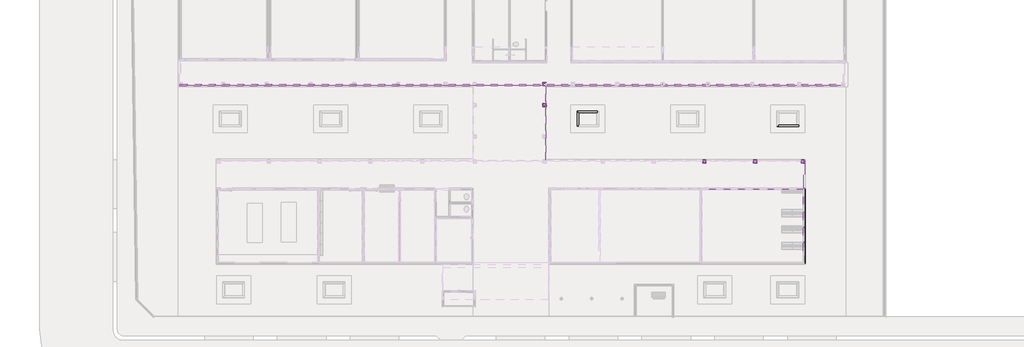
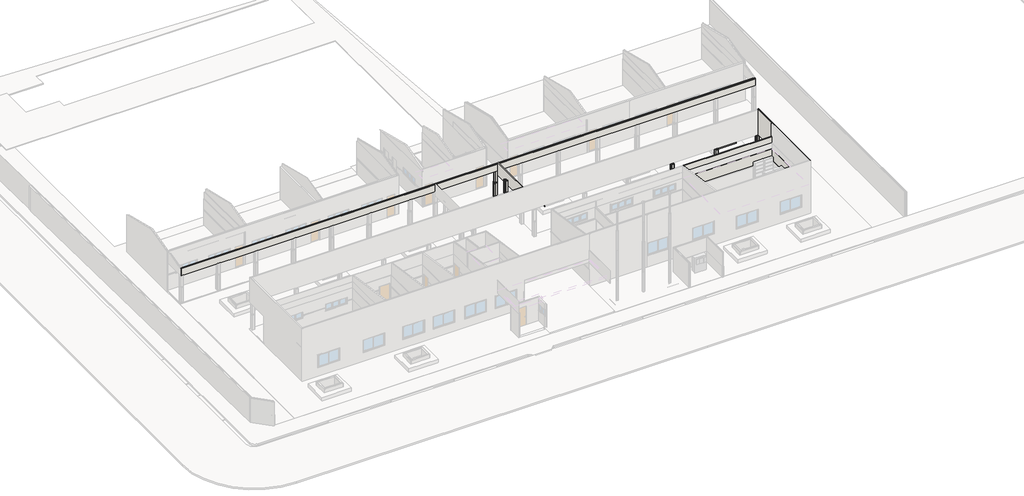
# One storey, part 14 of 28: 73 walls.
"""IFC4 building model written with IfcOpenShell, lengths in millimetres."""

from ifc_helpers import new_model, si_unit, frame, origin, origin_with_axes, place, context, project, spatial, polyline, outline, extrude, faceted_brep, element, save

model = new_model("IFC4")

# Units and contexts
model_context = context("Model", 3, world=origin())
ifc_project = project(units=[si_unit("LENGTHUNIT", "METRE", prefix="MILLI")], contexts=[model_context])

# Site, building, storey
site = spatial("IfcSite", under=ifc_project)
building = spatial("IfcBuilding", under=site)
storey = spatial("IfcBuildingStorey", under=building, Name="Térreo", Elevation=0.0)

# Walls
placement = place(None, origin())
element("IfcWall", 1, ObjectType="Pintura Externa - Tinta Acrílica Verbrás  Verde Água", at=placement, inside=storey, context=model_context, shape_type="Brep", body=[
    faceted_brep([(-6650.0, 4430.0000005, 0.0), (-6650.0, 10655.0, 0.0), (-6650.0, 10655.0, 1731.0528047), (-6650.0, 10670.0, 1731.0528047), (-6650.0, 10670.0, 1824.9435125), (-6650.0, 10691.0, 1824.9435125), (-6650.0, 10691.0, 2900.0), (-6650.0, 12980.0, 2900.0), (-6650.0, 12980.0, 5400.0), (-6650.0, 4430.0000005, 5400.0), (-6680.0, 4430.0000005, 0.0), (-6680.0, 4430.0000005, 5400.0), (-6680.0, 12950.0, 5400.0), (-6680.0, 12980.0, 5400.0), (-6680.0, 12980.0, 2900.0), (-6680.0, 12950.0, 2900.0), (-6680.0, 10691.0, 2900.0), (-6680.0, 10691.0, 1824.9435125), (-6680.0, 10670.0, 1824.9435125), (-6680.0, 10670.0, 1731.0528047), (-6680.0, 10655.0, 1731.0528047), (-6680.0, 10655.0, 0.0)], [[[0, 1, 2, 3, 4, 5, 6, 7, 8, 9]], [[10, 11, 12, 13, 14, 15, 16, 17, 18, 19, 20, 21]], [[0, 9, 11, 10]], [[8, 7, 14, 13]], [[7, 6, 16, 15, 14]], [[9, 8, 13, 12, 11]], [[1, 0, 10, 21]], [[4, 3, 19, 18]], [[2, 1, 21, 20]], [[6, 5, 17, 16]], [[19, 3, 2, 20]], [[17, 5, 4, 18]]]),
])
element("IfcWall", 2, ObjectType="Pardes Internas_Pintura Acrílica Branco Neve 2", at=placement, inside=storey, context=model_context, shape_type="SweptSolid", body=[
    extrude(outline(polyline([(2900.0, -6770.0), (2900.0, -15149.0), (1824.9435125, -15149.0), (1824.9435125, -15080.0), (2312.0, -15080.0), (2312.0, -14246.0), (1824.9435125, -14246.0), (1824.9435125, -6770.0), (2900.0, -6770.0)])), frame((0.0, 10549.0, 0.0), z_axis=(0.0, 1.0, 0.0), x_axis=(0.0, 0.0, 1.0)), (0.0, 0.0, 1.0), 31.0),
])
element("IfcWall", 3, ObjectType="FDE_S712_AlvenariadeTijoloCerâmico/Baiano_Alvenaria_9cm - Existente", at=placement, inside=storey, context=model_context, shape_type="Brep", body=[
    faceted_brep([(-6770.0, 10670.0, 0.0), (-14246.0, 10670.0, 0.0), (-15080.0, 10670.0, 0.0), (-15180.0, 10670.0, 0.0), (-15180.0, 10670.0, 220.0), (-15180.0, 10670.0, 1731.0528047), (-15180.0, 10670.0, 2900.0), (-15180.0, 10670.0, 4085.0), (-6770.0, 10670.0, 4085.0), (-6770.0, 10670.0, 1731.0528047), (-15080.0, 10670.0, 2312.0), (-15080.0, 10670.0, 1731.0528047), (-15080.0, 10670.0, 200.0), (-14246.0, 10670.0, 200.0), (-14246.0, 10670.0, 1731.0528047), (-14246.0, 10670.0, 2312.0), (-15180.0, 10580.0, 0.0), (-15150.0, 10580.0, 0.0), (-6770.0, 10580.0, 0.0), (-6770.0, 10580.0, 1731.0528047), (-6770.0, 10580.0, 1824.9435125), (-6770.0, 10580.0, 2900.0), (-6770.0, 10580.0, 4098.5), (-15180.0, 10580.0, 4098.5), (-15180.0, 10580.0, 2900.0), (-15180.0, 10580.0, 1824.9435125), (-15180.0, 10580.0, 1731.0528047), (-15180.0, 10580.0, 220.0), (-15080.0, 10580.0, 200.0), (-15080.0, 10580.0, 1824.9435125), (-15080.0, 10580.0, 2312.0), (-14246.0, 10580.0, 2312.0), (-14246.0, 10580.0, 1824.9435125), (-14246.0, 10580.0, 1731.0528047), (-14246.0, 10580.0, 220.0), (-14246.0, 10580.0, 200.0), (-6770.0, 10655.0, 0.0)], [[[0, 1, 2, 3, 4, 5, 6, 7, 8, 9], [10, 11, 12, 13, 14, 15]], [[16, 17, 18, 19, 20, 21, 22, 23, 24, 25, 26, 27], [28, 29, 30, 31, 32, 33, 34, 35]], [[3, 2, 1, 0, 36, 18, 17, 16]], [[28, 12, 11, 10, 30, 29]], [[30, 10, 15, 31]], [[31, 15, 14, 13, 35, 34, 33, 32]], [[12, 28, 35, 13]], [[3, 16, 27, 26, 25, 24, 23, 7, 6, 5, 4]], [[7, 23, 22, 8]], [[18, 36, 0, 9, 8, 22, 21, 20, 19]]]),
])
element("IfcWall", 4, ObjectType="FDE_S712_AlvenariadeTijoloCerâmico/Baiano_Alvenaria_9cm", at=placement, inside=storey, context=model_context, shape_type="Brep", body=[
    faceted_brep([(-6680.0, 10670.0, 4136.0), (-6680.0, 10670.0, 2900.0), (-6680.0, 12950.0, 2900.0), (-6680.0, 12950.0, 5400.0), (-6680.0, 10625.0, 5400.0), (-6680.0, 10625.0, 4136.0), (-6770.0, 10670.0, 2900.0), (-6770.0, 10670.0, 4136.0), (-6770.0, 10625.0, 4136.0), (-6770.0, 10625.0, 5400.0), (-6770.0, 12860.0, 5400.0), (-6770.0, 12950.0, 5400.0), (-6770.0, 12950.0, 2900.0), (-6770.0, 12860.0, 2900.0)], [[[0, 1, 2, 3, 4, 5]], [[6, 7, 8, 9, 10, 11, 12, 13]], [[2, 1, 6, 13, 12]], [[4, 3, 11, 10, 9]], [[3, 2, 12, 11]], [[5, 4, 9, 8]], [[5, 8, 7, 0]], [[0, 7, 6, 1]]]),
])
element("IfcWall", 5, ObjectType="ACM Verde Folha_Marquise", at=placement, inside=storey, context=model_context, shape_type="Brep", body=[
    faceted_brep([(-27999.0, 19037.7110243, 2530.0), (-27999.0, 19017.7110243, 2530.0), (-27999.0, 13000.0, 2530.0), (-27999.0, 12980.0, 2530.0), (-27999.0, 12971.0, 2530.0), (-27999.0, 12971.0, 2900.0), (-27999.0, 12980.0, 2900.0), (-27999.0, 12980.0, 3790.9420848), (-27999.0, 13000.0, 3790.9420848), (-27999.0, 19017.7110243, 3790.9420848), (-27999.0, 19037.7110243, 3790.9420848), (-27979.0, 19037.7110243, 2530.0), (-27979.0, 19037.7110243, 3790.9420848), (-27979.0, 12980.0, 3790.9420848), (-27979.0, 12980.0, 2900.0), (-27979.0, 12971.0, 2900.0), (-27979.0, 12971.0, 2530.0)], [[[0, 1, 2, 3, 4, 5, 6, 7, 8, 9, 10]], [[11, 12, 13, 14, 15, 16]], [[4, 3, 2, 1, 0, 11, 16]], [[10, 9, 8, 7, 13, 12]], [[14, 6, 5, 15]], [[5, 4, 16, 15]], [[7, 6, 14, 13]], [[0, 10, 12, 11]]]),
])
element("IfcWall", 6, ObjectType="Pardes Internas_Pintura Acrílica Branco Neve 2", at=placement, inside=storey, context=model_context, shape_type="SweptSolid", body=[
    extrude(outline(polyline([(-6770.0, 10580.0), (-6770.0, 5500.2772826), (-6801.0, 5500.2772826), (-6801.0, 10580.0), (-6770.0, 10580.0)])), frame((0.0, 0.0, 1824.9435125), z_axis=(0.0, 0.0, 1.0), x_axis=(1.0, 0.0, 0.0)), (0.0, 0.0, 1.0), 1075.0564875),
])
element("IfcWall", 7, ObjectType="Faixa - Revestimento Cerâmico Verde Folha 10x10cm", at=placement, inside=storey, context=model_context, shape_type="SweptSolid", body=[
    extrude(outline(polyline([(-6770.0, 10580.0), (-6770.0, 5500.2772826), (-6800.0, 5500.2772826), (-6800.0, 10580.0), (-6770.0, 10580.0)])), frame((0.0, 0.0, 1731.0528047), z_axis=(0.0, 0.0, 1.0), x_axis=(1.0, 0.0, 0.0)), (0.0, 0.0, 1.0), 93.8907079),
])
element("IfcWall", 8, ObjectType="Pardes Externas_Pintura Acrílica Branco Neve", at=placement, inside=storey, context=model_context, shape_type="Brep", body=[
    faceted_brep([(-15071.0, 12950.0, 1794.0), (-15050.0, 12950.0, 1794.0), (-14850.0, 12950.0, 1794.0), (-14829.0, 12950.0, 1794.0), (-14829.0, 12950.0, 2900.0), (-14850.0, 12950.0, 2900.0), (-15050.0, 12950.0, 2900.0), (-15071.0, 12950.0, 2900.0), (-15071.0, 12971.0, 1794.0), (-15071.0, 12971.0, 2900.0), (-14829.0, 12971.0, 2900.0), (-14829.0, 12971.0, 1794.0)], [[[0, 1, 2, 3, 4, 5, 6, 7]], [[8, 9, 10, 11]], [[3, 2, 1, 0, 8, 11]], [[7, 6, 5, 4, 10, 9]], [[0, 7, 9, 8]], [[4, 3, 11, 10]]]),
])
element("IfcWall", 9, ObjectType="Revestimento Cerâmico 10x10cm", at=placement, inside=storey, context=model_context, shape_type="Brep", body=[
    faceted_brep([(-15080.0, 12950.0, 194.0), (-15050.0, 12950.0, 194.0), (-14850.0, 12950.0, 194.0), (-14820.0, 12950.0, 194.0), (-14820.0, 12950.0, 1694.0), (-14850.0, 12950.0, 1694.0), (-15050.0, 12950.0, 1694.0), (-15080.0, 12950.0, 1694.0), (-15080.0, 12980.0, 194.0), (-15080.0, 12980.0, 1694.0), (-14820.0, 12980.0, 1694.0), (-14820.0, 12980.0, 194.0)], [[[0, 1, 2, 3, 4, 5, 6, 7]], [[8, 9, 10, 11]], [[3, 2, 1, 0, 8, 11]], [[7, 6, 5, 4, 10, 9]], [[0, 7, 9, 8]], [[4, 3, 11, 10]]]),
])
element("IfcWall", 10, ObjectType="Revestimento Cerâmico 10x10cm", at=placement, inside=storey, context=model_context, shape_type="Brep", body=[
    faceted_brep([(-15050.0, 12720.0, 194.0), (-15050.0, 12750.0, 194.0), (-15050.0, 12950.0, 194.0), (-15050.0, 12950.0, 1694.0), (-15050.0, 12750.0, 1694.0), (-15050.0, 12720.0, 1694.0), (-15080.0, 12720.0, 194.0), (-15080.0, 12720.0, 1694.0), (-15080.0, 12950.0, 1694.0), (-15080.0, 12950.0, 194.0)], [[[0, 1, 2, 3, 4, 5]], [[6, 7, 8, 9]], [[2, 1, 0, 6, 9]], [[5, 4, 3, 8, 7]], [[3, 2, 9, 8]], [[0, 5, 7, 6]]]),
])
element("IfcWall", 11, ObjectType="Revestimento Cerâmico 10x10cm", at=placement, inside=storey, context=model_context, shape_type="Brep", body=[
    faceted_brep([(-14850.0, 12950.0, 194.0), (-14850.0, 12750.0, 194.0), (-14850.0, 12720.0, 194.0), (-14850.0, 12720.0, 1694.0), (-14850.0, 12750.0, 1694.0), (-14850.0, 12950.0, 1694.0), (-14820.0, 12950.0, 194.0), (-14820.0, 12950.0, 1694.0), (-14820.0, 12720.0, 1694.0), (-14820.0, 12720.0, 194.0)], [[[0, 1, 2, 3, 4, 5]], [[6, 7, 8, 9]], [[2, 1, 0, 6, 9]], [[5, 4, 3, 8, 7]], [[0, 5, 7, 6]], [[3, 2, 9, 8]]]),
])
element("IfcWall", 12, ObjectType="Revestimento Cerâmico 10x10cm", at=placement, inside=storey, context=model_context, shape_type="SweptSolid", body=[
    extrude(outline(polyline([(-14850.0, 12720.0), (-15050.0, 12720.0), (-15050.0, 12750.0), (-14850.0, 12750.0), (-14850.0, 12720.0)])), frame((0.0, 0.0, 194.0), z_axis=(0.0, 0.0, 1.0), x_axis=(1.0, 0.0, 0.0)), (0.0, 0.0, 1.0), 1500.0),
])
element("IfcWall", 13, ObjectType="Faixa - Revestimento Cerâmico Verde Folha 10x10cm", at=placement, inside=storey, context=model_context, shape_type="Brep", body=[
    faceted_brep([(-15080.0, 12950.0, 1694.0), (-15050.0, 12950.0, 1694.0), (-14850.0, 12950.0, 1694.0), (-14820.0, 12950.0, 1694.0), (-14820.0, 12950.0, 1794.0), (-14850.0, 12950.0, 1794.0), (-15050.0, 12950.0, 1794.0), (-15080.0, 12950.0, 1794.0), (-15080.0, 12980.0, 1694.0), (-15080.0, 12980.0, 1794.0), (-14820.0, 12980.0, 1794.0), (-14820.0, 12980.0, 1694.0)], [[[0, 1, 2, 3, 4, 5, 6, 7]], [[8, 9, 10, 11]], [[3, 2, 1, 0, 8, 11]], [[7, 6, 5, 4, 10, 9]], [[4, 3, 11, 10]], [[0, 7, 9, 8]]]),
])
element("IfcWall", 14, ObjectType="Faixa - Revestimento Cerâmico Verde Folha 10x10cm", at=placement, inside=storey, context=model_context, shape_type="Brep", body=[
    faceted_brep([(-14850.0, 12950.0, 1694.0), (-14850.0, 12750.0, 1694.0), (-14850.0, 12720.0, 1694.0), (-14850.0, 12720.0, 1794.0), (-14850.0, 12750.0, 1794.0), (-14850.0, 12950.0, 1794.0), (-14820.0, 12950.0, 1694.0), (-14820.0, 12950.0, 1794.0), (-14820.0, 12720.0, 1794.0), (-14820.0, 12720.0, 1694.0)], [[[0, 1, 2, 3, 4, 5]], [[6, 7, 8, 9]], [[2, 1, 0, 6, 9]], [[5, 4, 3, 8, 7]], [[0, 5, 7, 6]], [[3, 2, 9, 8]]]),
])
element("IfcWall", 15, ObjectType="Faixa - Revestimento Cerâmico Verde Folha 10x10cm", at=placement, inside=storey, context=model_context, shape_type="Brep", body=[
    faceted_brep([(-15080.0, 12720.0, 1694.0), (-14850.0, 12720.0, 1694.0), (-14850.0, 12720.0, 1794.0), (-15080.0, 12720.0, 1794.0), (-15080.0, 12750.0, 1694.0), (-15080.0, 12750.0, 1794.0), (-15050.0, 12750.0, 1794.0), (-14850.0, 12750.0, 1794.0), (-14850.0, 12750.0, 1694.0), (-15050.0, 12750.0, 1694.0), (-14850.0, 12729.0, 1794.0)], [[[0, 1, 2, 3]], [[4, 5, 6, 7, 8, 9]], [[1, 0, 4, 9, 8]], [[3, 2, 10, 7, 6, 5]], [[2, 1, 8, 7, 10]], [[0, 3, 5, 4]]]),
])
element("IfcWall", 16, ObjectType="Faixa - Revestimento Cerâmico Verde Folha 10x10cm", at=placement, inside=storey, context=model_context, shape_type="SweptSolid", body=[
    extrude(outline(polyline([(-15080.0, 12750.0), (-15080.0, 12950.0), (-15050.0, 12950.0), (-15050.0, 12750.0), (-15080.0, 12750.0)])), frame((0.0, 0.0, 1694.0), z_axis=(0.0, 0.0, 1.0), x_axis=(1.0, 0.0, 0.0)), (0.0, 0.0, 1.0), 100.0),
])
element("IfcWall", 17, ObjectType="Pardes Externas_Pintura Acrílica Branco Neve", at=placement, inside=storey, context=model_context, shape_type="SweptSolid", body=[
    extrude(outline(polyline([(-14850.0, 12729.0), (-15050.0, 12729.0), (-15050.0, 12750.0), (-14850.0, 12750.0), (-14850.0, 12729.0)])), frame((0.0, 0.0, 1794.0), z_axis=(0.0, 0.0, 1.0), x_axis=(1.0, 0.0, 0.0)), (0.0, 0.0, 1.0), 1106.0),
])
element("IfcWall", 18, ObjectType="Pardes Externas_Pintura Acrílica Branco Neve", at=placement, inside=storey, context=model_context, shape_type="Brep", body=[
    faceted_brep([(-14850.0, 12950.0, 1794.0), (-14850.0, 12750.0, 1794.0), (-14850.0, 12729.0, 1794.0), (-14850.0, 12729.0, 2900.0), (-14850.0, 12750.0, 2900.0), (-14850.0, 12950.0, 2900.0), (-14829.0, 12950.0, 1794.0), (-14829.0, 12950.0, 2900.0), (-14829.0, 12729.0, 2900.0), (-14829.0, 12729.0, 1794.0)], [[[0, 1, 2, 3, 4, 5]], [[6, 7, 8, 9]], [[2, 1, 0, 6, 9]], [[5, 4, 3, 8, 7]], [[3, 2, 9, 8]], [[0, 5, 7, 6]]]),
])
element("IfcWall", 19, ObjectType="Pardes Externas_Pintura Acrílica Branco Neve", at=placement, inside=storey, context=model_context, shape_type="Brep", body=[
    faceted_brep([(-15071.0, 12950.0, 1794.0), (-15071.0, 12729.0, 1794.0), (-15071.0, 12729.0, 2900.0), (-15071.0, 12950.0, 2900.0), (-15050.0, 12950.0, 1794.0), (-15050.0, 12950.0, 2900.0), (-15050.0, 12750.0, 2900.0), (-15050.0, 12729.0, 2900.0), (-15050.0, 12729.0, 1794.0), (-15050.0, 12750.0, 1794.0)], [[[0, 1, 2, 3]], [[4, 5, 6, 7, 8, 9]], [[1, 0, 4, 9, 8]], [[3, 2, 7, 6, 5]], [[2, 1, 8, 7]], [[0, 3, 5, 4]]]),
])
element("IfcWall", 20, ObjectType="Pardes Externas_Pintura Acrílica Branco Neve", at=placement, inside=storey, context=model_context, shape_type="Brep", body=[
    faceted_brep([(-10896.0, 12950.0, 1794.0), (-10875.0, 12950.0, 1794.0), (-10675.0, 12950.0, 1794.0), (-10654.0, 12950.0, 1794.0), (-10654.0, 12950.0, 2900.0), (-10675.0, 12950.0, 2900.0), (-10875.0, 12950.0, 2900.0), (-10896.0, 12950.0, 2900.0), (-10896.0, 12971.0, 1794.0), (-10896.0, 12971.0, 2900.0), (-10654.0, 12971.0, 2900.0), (-10654.0, 12971.0, 1794.0)], [[[0, 1, 2, 3, 4, 5, 6, 7]], [[8, 9, 10, 11]], [[3, 2, 1, 0, 8, 11]], [[7, 6, 5, 4, 10, 9]], [[0, 7, 9, 8]], [[4, 3, 11, 10]]]),
])
element("IfcWall", 21, ObjectType="Revestimento Cerâmico 10x10cm", at=placement, inside=storey, context=model_context, shape_type="Brep", body=[
    faceted_brep([(-10905.0, 12950.0, 194.0), (-10875.0, 12950.0, 194.0), (-10675.0, 12950.0, 194.0), (-10645.0, 12950.0, 194.0), (-10645.0, 12950.0, 1694.0), (-10675.0, 12950.0, 1694.0), (-10875.0, 12950.0, 1694.0), (-10905.0, 12950.0, 1694.0), (-10905.0, 12980.0, 194.0), (-10905.0, 12980.0, 1694.0), (-10645.0, 12980.0, 1694.0), (-10645.0, 12980.0, 194.0)], [[[0, 1, 2, 3, 4, 5, 6, 7]], [[8, 9, 10, 11]], [[3, 2, 1, 0, 8, 11]], [[7, 6, 5, 4, 10, 9]], [[0, 7, 9, 8]], [[4, 3, 11, 10]]]),
])
element("IfcWall", 22, ObjectType="Revestimento Cerâmico 10x10cm", at=placement, inside=storey, context=model_context, shape_type="Brep", body=[
    faceted_brep([(-10875.0, 12720.0, 194.0), (-10875.0, 12750.0, 194.0), (-10875.0, 12950.0, 194.0), (-10875.0, 12950.0, 1694.0), (-10875.0, 12750.0, 1694.0), (-10875.0, 12720.0, 1694.0), (-10905.0, 12720.0, 194.0), (-10905.0, 12720.0, 1694.0), (-10905.0, 12950.0, 1694.0), (-10905.0, 12950.0, 194.0)], [[[0, 1, 2, 3, 4, 5]], [[6, 7, 8, 9]], [[2, 1, 0, 6, 9]], [[5, 4, 3, 8, 7]], [[3, 2, 9, 8]], [[0, 5, 7, 6]]]),
])
element("IfcWall", 23, ObjectType="Revestimento Cerâmico 10x10cm", at=placement, inside=storey, context=model_context, shape_type="Brep", body=[
    faceted_brep([(-10675.0, 12950.0, 194.0), (-10675.0, 12750.0, 194.0), (-10675.0, 12720.0, 194.0), (-10675.0, 12720.0, 1694.0), (-10675.0, 12750.0, 1694.0), (-10675.0, 12950.0, 1694.0), (-10645.0, 12950.0, 194.0), (-10645.0, 12950.0, 1694.0), (-10645.0, 12720.0, 1694.0), (-10645.0, 12720.0, 194.0)], [[[0, 1, 2, 3, 4, 5]], [[6, 7, 8, 9]], [[2, 1, 0, 6, 9]], [[5, 4, 3, 8, 7]], [[0, 5, 7, 6]], [[3, 2, 9, 8]]]),
])
element("IfcWall", 24, ObjectType="Revestimento Cerâmico 10x10cm", at=placement, inside=storey, context=model_context, shape_type="SweptSolid", body=[
    extrude(outline(polyline([(-10675.0, 12720.0), (-10875.0, 12720.0), (-10875.0, 12750.0), (-10675.0, 12750.0), (-10675.0, 12720.0)])), frame((0.0, 0.0, 194.0), z_axis=(0.0, 0.0, 1.0), x_axis=(1.0, 0.0, 0.0)), (0.0, 0.0, 1.0), 1500.0),
])
element("IfcWall", 25, ObjectType="Faixa - Revestimento Cerâmico Verde Folha 10x10cm", at=placement, inside=storey, context=model_context, shape_type="Brep", body=[
    faceted_brep([(-10905.0, 12950.0, 1694.0), (-10875.0, 12950.0, 1694.0), (-10675.0, 12950.0, 1694.0), (-10645.0, 12950.0, 1694.0), (-10645.0, 12950.0, 1794.0), (-10675.0, 12950.0, 1794.0), (-10875.0, 12950.0, 1794.0), (-10905.0, 12950.0, 1794.0), (-10905.0, 12980.0, 1694.0), (-10905.0, 12980.0, 1794.0), (-10645.0, 12980.0, 1794.0), (-10645.0, 12980.0, 1694.0)], [[[0, 1, 2, 3, 4, 5, 6, 7]], [[8, 9, 10, 11]], [[3, 2, 1, 0, 8, 11]], [[7, 6, 5, 4, 10, 9]], [[4, 3, 11, 10]], [[0, 7, 9, 8]]]),
])
element("IfcWall", 26, ObjectType="Faixa - Revestimento Cerâmico Verde Folha 10x10cm", at=placement, inside=storey, context=model_context, shape_type="Brep", body=[
    faceted_brep([(-10675.0, 12950.0, 1694.0), (-10675.0, 12750.0, 1694.0), (-10675.0, 12720.0, 1694.0), (-10675.0, 12720.0, 1794.0), (-10675.0, 12750.0, 1794.0), (-10675.0, 12950.0, 1794.0), (-10645.0, 12950.0, 1694.0), (-10645.0, 12950.0, 1794.0), (-10645.0, 12720.0, 1794.0), (-10645.0, 12720.0, 1694.0)], [[[0, 1, 2, 3, 4, 5]], [[6, 7, 8, 9]], [[2, 1, 0, 6, 9]], [[5, 4, 3, 8, 7]], [[0, 5, 7, 6]], [[3, 2, 9, 8]]]),
])
element("IfcWall", 27, ObjectType="Faixa - Revestimento Cerâmico Verde Folha 10x10cm", at=placement, inside=storey, context=model_context, shape_type="Brep", body=[
    faceted_brep([(-10905.0, 12720.0, 1694.0), (-10675.0, 12720.0, 1694.0), (-10675.0, 12720.0, 1794.0), (-10905.0, 12720.0, 1794.0), (-10905.0, 12750.0, 1694.0), (-10905.0, 12750.0, 1794.0), (-10875.0, 12750.0, 1794.0), (-10675.0, 12750.0, 1794.0), (-10675.0, 12750.0, 1694.0), (-10875.0, 12750.0, 1694.0), (-10675.0, 12729.0, 1794.0)], [[[0, 1, 2, 3]], [[4, 5, 6, 7, 8, 9]], [[1, 0, 4, 9, 8]], [[3, 2, 10, 7, 6, 5]], [[2, 1, 8, 7, 10]], [[0, 3, 5, 4]]]),
])
element("IfcWall", 28, ObjectType="Faixa - Revestimento Cerâmico Verde Folha 10x10cm", at=placement, inside=storey, context=model_context, shape_type="SweptSolid", body=[
    extrude(outline(polyline([(-10905.0, 12750.0), (-10905.0, 12950.0), (-10875.0, 12950.0), (-10875.0, 12750.0), (-10905.0, 12750.0)])), frame((0.0, 0.0, 1694.0), z_axis=(0.0, 0.0, 1.0), x_axis=(1.0, 0.0, 0.0)), (0.0, 0.0, 1.0), 100.0),
])
element("IfcWall", 29, ObjectType="Pardes Externas_Pintura Acrílica Branco Neve", at=placement, inside=storey, context=model_context, shape_type="SweptSolid", body=[
    extrude(outline(polyline([(-10675.0, 12729.0), (-10875.0, 12729.0), (-10875.0, 12750.0), (-10675.0, 12750.0), (-10675.0, 12729.0)])), frame((0.0, 0.0, 1794.0), z_axis=(0.0, 0.0, 1.0), x_axis=(1.0, 0.0, 0.0)), (0.0, 0.0, 1.0), 1106.0),
])
element("IfcWall", 30, ObjectType="Pardes Externas_Pintura Acrílica Branco Neve", at=placement, inside=storey, context=model_context, shape_type="Brep", body=[
    faceted_brep([(-10675.0, 12950.0, 1794.0), (-10675.0, 12750.0, 1794.0), (-10675.0, 12729.0, 1794.0), (-10675.0, 12729.0, 2900.0), (-10675.0, 12750.0, 2900.0), (-10675.0, 12950.0, 2900.0), (-10654.0, 12950.0, 1794.0), (-10654.0, 12950.0, 2900.0), (-10654.0, 12729.0, 2900.0), (-10654.0, 12729.0, 1794.0)], [[[0, 1, 2, 3, 4, 5]], [[6, 7, 8, 9]], [[2, 1, 0, 6, 9]], [[5, 4, 3, 8, 7]], [[3, 2, 9, 8]], [[0, 5, 7, 6]]]),
])
element("IfcWall", 31, ObjectType="Pardes Externas_Pintura Acrílica Branco Neve", at=placement, inside=storey, context=model_context, shape_type="Brep", body=[
    faceted_brep([(-10896.0, 12950.0, 1794.0), (-10896.0, 12729.0, 1794.0), (-10896.0, 12729.0, 2900.0), (-10896.0, 12950.0, 2900.0), (-10875.0, 12950.0, 1794.0), (-10875.0, 12950.0, 2900.0), (-10875.0, 12750.0, 2900.0), (-10875.0, 12729.0, 2900.0), (-10875.0, 12729.0, 1794.0), (-10875.0, 12750.0, 1794.0)], [[[0, 1, 2, 3]], [[4, 5, 6, 7, 8, 9]], [[1, 0, 4, 9, 8]], [[3, 2, 7, 6, 5]], [[2, 1, 8, 7]], [[0, 3, 5, 4]]]),
])
element("IfcWall", 32, ObjectType="Pardes Externas_Pintura Acrílica Branco Neve", at=placement, inside=storey, context=model_context, shape_type="Brep", body=[
    faceted_brep([(-6971.0, 12950.0, 1794.0), (-6950.0, 12950.0, 1794.0), (-6750.0, 12950.0, 1794.0), (-6729.0, 12950.0, 1794.0), (-6729.0, 12950.0, 2900.0), (-6750.0, 12950.0, 2900.0), (-6950.0, 12950.0, 2900.0), (-6971.0, 12950.0, 2900.0), (-6971.0, 12971.0, 1794.0), (-6971.0, 12971.0, 2900.0), (-6729.0, 12971.0, 2900.0), (-6729.0, 12971.0, 1794.0)], [[[0, 1, 2, 3, 4, 5, 6, 7]], [[8, 9, 10, 11]], [[3, 2, 1, 0, 8, 11]], [[7, 6, 5, 4, 10, 9]], [[0, 7, 9, 8]], [[4, 3, 11, 10]]]),
])
element("IfcWall", 33, ObjectType="Revestimento Cerâmico 10x10cm", at=placement, inside=storey, context=model_context, shape_type="Brep", body=[
    faceted_brep([(-6980.0, 12950.0, 194.0), (-6950.0, 12950.0, 194.0), (-6750.0, 12950.0, 194.0), (-6720.0, 12950.0, 194.0), (-6720.0, 12950.0, 1694.0), (-6750.0, 12950.0, 1694.0), (-6950.0, 12950.0, 1694.0), (-6980.0, 12950.0, 1694.0), (-6980.0, 12980.0, 194.0), (-6980.0, 12980.0, 1694.0), (-6720.0, 12980.0, 1694.0), (-6720.0, 12980.0, 194.0)], [[[0, 1, 2, 3, 4, 5, 6, 7]], [[8, 9, 10, 11]], [[3, 2, 1, 0, 8, 11]], [[7, 6, 5, 4, 10, 9]], [[0, 7, 9, 8]], [[4, 3, 11, 10]]]),
])
element("IfcWall", 34, ObjectType="Revestimento Cerâmico 10x10cm", at=placement, inside=storey, context=model_context, shape_type="Brep", body=[
    faceted_brep([(-6950.0, 12720.0, 194.0), (-6950.0, 12750.0, 194.0), (-6950.0, 12950.0, 194.0), (-6950.0, 12950.0, 1694.0), (-6950.0, 12750.0, 1694.0), (-6950.0, 12720.0, 1694.0), (-6980.0, 12720.0, 194.0), (-6980.0, 12720.0, 1694.0), (-6980.0, 12950.0, 1694.0), (-6980.0, 12950.0, 194.0)], [[[0, 1, 2, 3, 4, 5]], [[6, 7, 8, 9]], [[2, 1, 0, 6, 9]], [[5, 4, 3, 8, 7]], [[3, 2, 9, 8]], [[0, 5, 7, 6]]]),
])
element("IfcWall", 35, ObjectType="Revestimento Cerâmico 10x10cm", at=placement, inside=storey, context=model_context, shape_type="Brep", body=[
    faceted_brep([(-6750.0, 12950.0, 194.0), (-6750.0, 12750.0, 194.0), (-6750.0, 12720.0, 194.0), (-6750.0, 12720.0, 1694.0), (-6750.0, 12750.0, 1694.0), (-6750.0, 12950.0, 1694.0), (-6720.0, 12950.0, 194.0), (-6720.0, 12950.0, 1694.0), (-6720.0, 12720.0, 1694.0), (-6720.0, 12720.0, 194.0)], [[[0, 1, 2, 3, 4, 5]], [[6, 7, 8, 9]], [[2, 1, 0, 6, 9]], [[5, 4, 3, 8, 7]], [[0, 5, 7, 6]], [[3, 2, 9, 8]]]),
])
element("IfcWall", 36, ObjectType="Revestimento Cerâmico 10x10cm", at=placement, inside=storey, context=model_context, shape_type="SweptSolid", body=[
    extrude(outline(polyline([(-6750.0, 12720.0), (-6950.0, 12720.0), (-6950.0, 12750.0), (-6750.0, 12750.0), (-6750.0, 12720.0)])), frame((0.0, 0.0, 194.0), z_axis=(0.0, 0.0, 1.0), x_axis=(1.0, 0.0, 0.0)), (0.0, 0.0, 1.0), 1500.0),
])
element("IfcWall", 37, ObjectType="Faixa - Revestimento Cerâmico Verde Folha 10x10cm", at=placement, inside=storey, context=model_context, shape_type="Brep", body=[
    faceted_brep([(-6980.0, 12950.0, 1694.0), (-6950.0, 12950.0, 1694.0), (-6750.0, 12950.0, 1694.0), (-6720.0, 12950.0, 1694.0), (-6720.0, 12950.0, 1794.0), (-6750.0, 12950.0, 1794.0), (-6950.0, 12950.0, 1794.0), (-6980.0, 12950.0, 1794.0), (-6980.0, 12980.0, 1694.0), (-6980.0, 12980.0, 1794.0), (-6720.0, 12980.0, 1794.0), (-6720.0, 12980.0, 1694.0)], [[[0, 1, 2, 3, 4, 5, 6, 7]], [[8, 9, 10, 11]], [[3, 2, 1, 0, 8, 11]], [[7, 6, 5, 4, 10, 9]], [[4, 3, 11, 10]], [[0, 7, 9, 8]]]),
])
element("IfcWall", 38, ObjectType="Faixa - Revestimento Cerâmico Verde Folha 10x10cm", at=placement, inside=storey, context=model_context, shape_type="Brep", body=[
    faceted_brep([(-6750.0, 12950.0, 1694.0), (-6750.0, 12750.0, 1694.0), (-6750.0, 12720.0, 1694.0), (-6750.0, 12720.0, 1794.0), (-6750.0, 12750.0, 1794.0), (-6750.0, 12950.0, 1794.0), (-6720.0, 12950.0, 1694.0), (-6720.0, 12950.0, 1794.0), (-6720.0, 12720.0, 1794.0), (-6720.0, 12720.0, 1694.0)], [[[0, 1, 2, 3, 4, 5]], [[6, 7, 8, 9]], [[2, 1, 0, 6, 9]], [[5, 4, 3, 8, 7]], [[0, 5, 7, 6]], [[3, 2, 9, 8]]]),
])
element("IfcWall", 39, ObjectType="Faixa - Revestimento Cerâmico Verde Folha 10x10cm", at=placement, inside=storey, context=model_context, shape_type="Brep", body=[
    faceted_brep([(-6980.0, 12720.0, 1694.0), (-6750.0, 12720.0, 1694.0), (-6750.0, 12720.0, 1794.0), (-6980.0, 12720.0, 1794.0), (-6980.0, 12750.0, 1694.0), (-6980.0, 12750.0, 1794.0), (-6950.0, 12750.0, 1794.0), (-6750.0, 12750.0, 1794.0), (-6750.0, 12750.0, 1694.0), (-6950.0, 12750.0, 1694.0), (-6750.0, 12729.0, 1794.0)], [[[0, 1, 2, 3]], [[4, 5, 6, 7, 8, 9]], [[1, 0, 4, 9, 8]], [[3, 2, 10, 7, 6, 5]], [[2, 1, 8, 7, 10]], [[0, 3, 5, 4]]]),
])
element("IfcWall", 40, ObjectType="Faixa - Revestimento Cerâmico Verde Folha 10x10cm", at=placement, inside=storey, context=model_context, shape_type="SweptSolid", body=[
    extrude(outline(polyline([(-6980.0, 12750.0), (-6980.0, 12950.0), (-6950.0, 12950.0), (-6950.0, 12750.0), (-6980.0, 12750.0)])), frame((0.0, 0.0, 1694.0), z_axis=(0.0, 0.0, 1.0), x_axis=(1.0, 0.0, 0.0)), (0.0, 0.0, 1.0), 100.0),
])
element("IfcWall", 41, ObjectType="Pardes Externas_Pintura Acrílica Branco Neve", at=placement, inside=storey, context=model_context, shape_type="SweptSolid", body=[
    extrude(outline(polyline([(-6750.0, 12729.0), (-6950.0, 12729.0), (-6950.0, 12750.0), (-6750.0, 12750.0), (-6750.0, 12729.0)])), frame((0.0, 0.0, 1794.0), z_axis=(0.0, 0.0, 1.0), x_axis=(1.0, 0.0, 0.0)), (0.0, 0.0, 1.0), 1106.0),
])
element("IfcWall", 42, ObjectType="Pardes Externas_Pintura Acrílica Branco Neve", at=placement, inside=storey, context=model_context, shape_type="Brep", body=[
    faceted_brep([(-6750.0, 12950.0, 1794.0), (-6750.0, 12750.0, 1794.0), (-6750.0, 12729.0, 1794.0), (-6750.0, 12729.0, 2900.0), (-6750.0, 12750.0, 2900.0), (-6750.0, 12950.0, 2900.0), (-6729.0, 12950.0, 1794.0), (-6729.0, 12950.0, 2900.0), (-6729.0, 12729.0, 2900.0), (-6729.0, 12729.0, 1794.0)], [[[0, 1, 2, 3, 4, 5]], [[6, 7, 8, 9]], [[2, 1, 0, 6, 9]], [[5, 4, 3, 8, 7]], [[3, 2, 9, 8]], [[0, 5, 7, 6]]]),
])
element("IfcWall", 43, ObjectType="Pardes Externas_Pintura Acrílica Branco Neve", at=placement, inside=storey, context=model_context, shape_type="Brep", body=[
    faceted_brep([(-6971.0, 12950.0, 1794.0), (-6971.0, 12729.0, 1794.0), (-6971.0, 12729.0, 2900.0), (-6971.0, 12950.0, 2900.0), (-6950.0, 12950.0, 1794.0), (-6950.0, 12950.0, 2900.0), (-6950.0, 12750.0, 2900.0), (-6950.0, 12729.0, 2900.0), (-6950.0, 12729.0, 1794.0), (-6950.0, 12750.0, 1794.0)], [[[0, 1, 2, 3]], [[4, 5, 6, 7, 8, 9]], [[1, 0, 4, 9, 8]], [[3, 2, 7, 6, 5]], [[2, 1, 8, 7]], [[0, 3, 5, 4]]]),
])
element("IfcWall", 44, ObjectType="Pardes Externas_Pintura Acrílica Branco Neve", at=placement, inside=storey, context=model_context, shape_type="Brep", body=[
    faceted_brep([(-28221.0, 19330.0, 1794.0), (-28200.0, 19330.0, 1794.0), (-28000.0, 19330.0, 1794.0), (-27979.0, 19330.0, 1794.0), (-27979.0, 19330.0, 2900.0), (-28000.0, 19330.0, 2900.0), (-28200.0, 19330.0, 2900.0), (-28221.0, 19330.0, 2900.0), (-28221.0, 19351.0, 1794.0), (-28221.0, 19351.0, 2900.0), (-27979.0, 19351.0, 2900.0), (-27979.0, 19351.0, 1794.0)], [[[0, 1, 2, 3, 4, 5, 6, 7]], [[8, 9, 10, 11]], [[3, 2, 1, 0, 8, 11]], [[7, 6, 5, 4, 10, 9]], [[0, 7, 9, 8]], [[4, 3, 11, 10]]]),
])
element("IfcWall", 45, ObjectType="Revestimento Cerâmico 10x10cm", at=placement, inside=storey, context=model_context, shape_type="Brep", body=[
    faceted_brep([(-28230.0, 19330.0, 194.0), (-28200.0, 19330.0, 194.0), (-28000.0, 19330.0, 194.0), (-27970.0, 19330.0, 194.0), (-27970.0, 19330.0, 1694.0), (-28000.0, 19330.0, 1694.0), (-28200.0, 19330.0, 1694.0), (-28230.0, 19330.0, 1694.0), (-28230.0, 19360.0, 194.0), (-28230.0, 19360.0, 1694.0), (-27970.0, 19360.0, 1694.0), (-27970.0, 19360.0, 194.0)], [[[0, 1, 2, 3, 4, 5, 6, 7]], [[8, 9, 10, 11]], [[3, 2, 1, 0, 8, 11]], [[7, 6, 5, 4, 10, 9]], [[0, 7, 9, 8]], [[4, 3, 11, 10]]]),
])
element("IfcWall", 46, ObjectType="Revestimento Cerâmico 10x10cm", at=placement, inside=storey, context=model_context, shape_type="Brep", body=[
    faceted_brep([(-28200.0, 19100.0, 194.0), (-28200.0, 19130.0, 194.0), (-28200.0, 19330.0, 194.0), (-28200.0, 19330.0, 1694.0), (-28200.0, 19130.0, 1694.0), (-28200.0, 19100.0, 1694.0), (-28230.0, 19100.0, 194.0), (-28230.0, 19100.0, 1694.0), (-28230.0, 19330.0, 1694.0), (-28230.0, 19330.0, 194.0)], [[[0, 1, 2, 3, 4, 5]], [[6, 7, 8, 9]], [[2, 1, 0, 6, 9]], [[5, 4, 3, 8, 7]], [[3, 2, 9, 8]], [[0, 5, 7, 6]]]),
])
element("IfcWall", 47, ObjectType="Revestimento Cerâmico 10x10cm", at=placement, inside=storey, context=model_context, shape_type="SweptSolid", body=[
    extrude(outline(polyline([(-28000.0, 19100.0), (-28200.0, 19100.0), (-28200.0, 19130.0), (-28000.0, 19130.0), (-28000.0, 19100.0)])), frame((0.0, 0.0, 194.0), z_axis=(0.0, 0.0, 1.0), x_axis=(1.0, 0.0, 0.0)), (0.0, 0.0, 1.0), 1500.0),
])
element("IfcWall", 48, ObjectType="Faixa - Revestimento Cerâmico Verde Folha 10x10cm", at=placement, inside=storey, context=model_context, shape_type="Brep", body=[
    faceted_brep([(-28230.0, 19330.0, 1694.0), (-28200.0, 19330.0, 1694.0), (-28000.0, 19330.0, 1694.0), (-27970.0, 19330.0, 1694.0), (-27970.0, 19330.0, 1794.0), (-28000.0, 19330.0, 1794.0), (-28200.0, 19330.0, 1794.0), (-28230.0, 19330.0, 1794.0), (-28230.0, 19360.0, 1694.0), (-28230.0, 19360.0, 1794.0), (-27970.0, 19360.0, 1794.0), (-27970.0, 19360.0, 1694.0)], [[[0, 1, 2, 3, 4, 5, 6, 7]], [[8, 9, 10, 11]], [[3, 2, 1, 0, 8, 11]], [[7, 6, 5, 4, 10, 9]], [[4, 3, 11, 10]], [[0, 7, 9, 8]]]),
])
element("IfcWall", 49, ObjectType="Faixa - Revestimento Cerâmico Verde Folha 10x10cm", at=placement, inside=storey, context=model_context, shape_type="Brep", body=[
    faceted_brep([(-28230.0, 19100.0, 1694.0), (-28000.0, 19100.0, 1694.0), (-28000.0, 19100.0, 1794.0), (-28230.0, 19100.0, 1794.0), (-28230.0, 19130.0, 1694.0), (-28230.0, 19130.0, 1794.0), (-28200.0, 19130.0, 1794.0), (-28000.0, 19130.0, 1794.0), (-28000.0, 19130.0, 1694.0), (-28200.0, 19130.0, 1694.0), (-28000.0, 19109.0, 1794.0)], [[[0, 1, 2, 3]], [[4, 5, 6, 7, 8, 9]], [[1, 0, 4, 9, 8]], [[3, 2, 10, 7, 6, 5]], [[2, 1, 8, 7, 10]], [[0, 3, 5, 4]]]),
])
element("IfcWall", 50, ObjectType="Faixa - Revestimento Cerâmico Verde Folha 10x10cm", at=placement, inside=storey, context=model_context, shape_type="SweptSolid", body=[
    extrude(outline(polyline([(-28230.0, 19130.0), (-28230.0, 19330.0), (-28200.0, 19330.0), (-28200.0, 19130.0), (-28230.0, 19130.0)])), frame((0.0, 0.0, 1694.0), z_axis=(0.0, 0.0, 1.0), x_axis=(1.0, 0.0, 0.0)), (0.0, 0.0, 1.0), 100.0),
])
element("IfcWall", 51, ObjectType="Pardes Externas_Pintura Acrílica Branco Neve", at=placement, inside=storey, context=model_context, shape_type="SweptSolid", body=[
    extrude(outline(polyline([(-28000.0, 19109.0), (-28200.0, 19109.0), (-28200.0, 19130.0), (-28000.0, 19130.0), (-28000.0, 19109.0)])), frame((0.0, 0.0, 1794.0), z_axis=(0.0, 0.0, 1.0), x_axis=(1.0, 0.0, 0.0)), (0.0, 0.0, 1.0), 1106.0),
])
element("IfcWall", 52, ObjectType="Pardes Externas_Pintura Acrílica Branco Neve", at=placement, inside=storey, context=model_context, shape_type="Brep", body=[
    faceted_brep([(-28221.0, 19330.0, 1794.0), (-28221.0, 19109.0, 1794.0), (-28221.0, 19109.0, 2900.0), (-28221.0, 19330.0, 2900.0), (-28200.0, 19330.0, 1794.0), (-28200.0, 19330.0, 2900.0), (-28200.0, 19130.0, 2900.0), (-28200.0, 19109.0, 2900.0), (-28200.0, 19109.0, 1794.0), (-28200.0, 19130.0, 1794.0)], [[[0, 1, 2, 3]], [[4, 5, 6, 7, 8, 9]], [[1, 0, 4, 9, 8]], [[3, 2, 7, 6, 5]], [[2, 1, 8, 7]], [[0, 3, 5, 4]]]),
])
element("IfcWall", 53, ObjectType="FDE_S713_AlvenariadeTijoloLaminadoaVista_Alvenaria_1/2TijoloAlternado_11,5cm", at=placement, inside=storey, context=model_context, shape_type="Brep", body=[
    faceted_brep([(-25402.7590053, 16895.1451949, 100.0), (-25402.7590053, 15752.1451949, 100.0), (-25402.7590053, 15752.1451949, 800.0), (-25402.7590053, 16895.1451949, 800.0), (-25402.7590053, 16895.1451949, 179.0468845), (-25287.7590053, 16895.1451949, 100.0), (-25287.7590053, 16895.1451949, 800.0), (-25287.7590053, 15867.1451949, 800.0), (-25287.7590053, 15752.1451949, 800.0), (-25287.7590053, 15752.1451949, 100.0)], [[[0, 1, 2, 3, 4]], [[5, 6, 7, 8, 9]], [[1, 0, 5, 9]], [[3, 2, 8, 7, 6]], [[2, 1, 9, 8]], [[0, 4, 3, 6, 5]]]),
])
element("IfcWall", 54, ObjectType="FDE_S713_AlvenariadeTijoloLaminadoaVista_Alvenaria_1/2TijoloAlternado_11,5cm", at=placement, inside=storey, context=model_context, shape_type="Brep", body=[
    faceted_brep([(-23759.7590053, 17010.1451949, 179.0468845), (-25402.7590053, 17010.1451949, 179.0468845), (-25402.7590053, 17010.1451949, 800.0), (-23759.7590053, 17010.1451949, 800.0), (-23759.7590053, 16895.1451949, 179.0468845), (-23759.7590053, 16895.1451949, 800.0), (-25287.7590053, 16895.1451949, 800.0), (-25402.7590053, 16895.1451949, 800.0), (-25402.7590053, 16895.1451949, 179.0468845)], [[[0, 1, 2, 3]], [[4, 5, 6, 7, 8]], [[1, 0, 4, 8]], [[3, 2, 7, 6, 5]], [[2, 1, 8, 7]], [[0, 3, 5, 4]]]),
])
element("IfcWall", 55, ObjectType="Pardes Externas_Pintura Acrílica Branco Neve", at=placement, inside=storey, context=model_context, shape_type="Brep", body=[
    faceted_brep([(-25402.7590053, 15731.1451949, 100.0), (-25402.7590053, 15752.1451949, 100.0), (-25402.7590053, 17010.1451949, 100.0), (-25402.7590053, 17010.1451949, 800.0), (-25402.7590053, 15752.1451949, 800.0), (-25402.7590053, 15731.1451949, 800.0), (-25423.7590053, 15731.1451949, 100.0), (-25423.7590053, 15731.1451949, 800.0), (-25423.7590053, 17010.1451949, 800.0), (-25423.7590053, 17010.1451949, 100.0)], [[[0, 1, 2, 3, 4, 5]], [[6, 7, 8, 9]], [[2, 1, 0, 6, 9]], [[5, 4, 3, 8, 7]], [[3, 2, 9, 8]], [[0, 5, 7, 6]]]),
])
element("IfcWall", 56, ObjectType="Pardes Externas_Pintura Acrílica Branco Neve", at=placement, inside=storey, context=model_context, shape_type="Brep", body=[
    faceted_brep([(-25287.7590053, 16874.1451949, 0.0), (-25287.7590053, 15867.1451949, 0.0), (-25287.7590053, 15867.1451949, 800.0), (-25287.7590053, 16874.1451949, 800.0), (-25266.7590053, 16874.1451949, 0.0), (-25266.7590053, 16874.1451949, 800.0), (-25266.7590053, 15888.1451949, 800.0), (-25266.7590053, 15867.1451949, 800.0), (-25266.7590053, 15867.1451949, 0.0), (-25266.7590053, 15888.1451949, 0.0)], [[[0, 1, 2, 3]], [[4, 5, 6, 7, 8, 9]], [[1, 0, 4, 9, 8]], [[3, 2, 7, 6, 5]], [[0, 3, 5, 4]], [[2, 1, 8, 7]]]),
])
element("IfcWall", 57, ObjectType="FDE_S713_AlvenariadeTijoloLaminadoaVista_Alvenaria_1/2TijoloAlternado_11,5cm", at=placement, inside=storey, context=model_context, shape_type="Brep", body=[
    faceted_brep([(-8835.0948906, 15752.1451949, 0.0), (-7192.0948906, 15752.1451949, 0.0), (-7192.0948906, 15752.1451949, 800.0), (-8835.0948906, 15752.1451949, 800.0), (-8835.0948906, 15752.1451949, 100.0), (-8835.0948906, 15867.1451949, 0.0), (-8835.0948906, 15867.1451949, 800.0), (-7307.0948906, 15867.1451949, 800.0), (-7192.0948906, 15867.1451949, 800.0), (-7192.0948906, 15867.1451949, 100.0), (-7192.0948906, 15867.1451949, 0.0)], [[[0, 1, 2, 3, 4]], [[5, 6, 7, 8, 9, 10]], [[1, 0, 5, 10]], [[3, 2, 8, 7, 6]], [[2, 1, 10, 9, 8]], [[0, 4, 3, 6, 5]]]),
])
element("IfcWall", 58, ObjectType="Pardes Externas_Pintura Acrílica Branco Neve", at=placement, inside=storey, context=model_context, shape_type="SweptSolid", body=[
    extrude(outline(polyline([(-8950.0948906, 15752.1451949), (-7192.0948906, 15752.1451949), (-7192.0948906, 15731.1451949), (-8950.0948906, 15731.1451949), (-8950.0948906, 15752.1451949)])), frame((0.0, 0.0, 100.0), z_axis=(0.0, 0.0, 1.0), x_axis=(1.0, 0.0, 0.0)), (0.0, 0.0, 1.0), 700.0),
])
element("IfcWall", 59, ObjectType="Pardes Externas_Pintura Acrílica Branco Neve", at=placement, inside=storey, context=model_context, shape_type="SweptSolid", body=[
    extrude(outline(polyline([(-7328.0948906, 15867.1451949), (-8814.0948906, 15867.1451949), (-8814.0948906, 15888.1451949), (-7328.0948906, 15888.1451949), (-7328.0948906, 15867.1451949)])), origin_with_axes(), (0.0, 0.0, 1.0), 800.0),
])
element("IfcWall", 60, ObjectType="Pardes Externas_Pintura Acrílica Branco Neve", at=placement, inside=storey, context=model_context, shape_type="Brep", body=[
    faceted_brep([(-28221.0, 17620.0, 1794.0), (-28200.0, 17620.0, 1794.0), (-28000.0, 17620.0, 1794.0), (-27979.0, 17620.0, 1794.0), (-27979.0, 17620.0, 2900.0), (-27999.0, 17620.0, 2900.0), (-27999.0, 17620.0, 2987.7849444), (-28200.0, 17620.0, 3017.9349444), (-28221.0, 17620.0, 3021.0849444), (-28221.0, 17641.0, 1794.0), (-28221.0, 17641.0, 3021.0849444), (-27999.0, 17641.0, 2987.7849444), (-27999.0, 17641.0, 2900.0), (-27979.0, 17641.0, 2900.0), (-27979.0, 17641.0, 1794.0)], [[[0, 1, 2, 3, 4, 5, 6, 7, 8]], [[9, 10, 11, 12, 13, 14]], [[3, 2, 1, 0, 9, 14]], [[0, 8, 10, 9]], [[4, 3, 14, 13]], [[5, 4, 13, 12]], [[5, 12, 11, 6]], [[8, 7, 6, 11, 10]]]),
])
element("IfcWall", 61, ObjectType="Revestimento Cerâmico 10x10cm", at=placement, inside=storey, context=model_context, shape_type="Brep", body=[
    faceted_brep([(-28230.0, 17620.0, 194.0), (-28200.0, 17620.0, 194.0), (-28000.0, 17620.0, 194.0), (-27970.0, 17620.0, 194.0), (-27970.0, 17620.0, 1694.0), (-28000.0, 17620.0, 1694.0), (-28200.0, 17620.0, 1694.0), (-28230.0, 17620.0, 1694.0), (-28230.0, 17650.0, 194.0), (-28230.0, 17650.0, 1694.0), (-27970.0, 17650.0, 1694.0), (-27970.0, 17650.0, 194.0)], [[[0, 1, 2, 3, 4, 5, 6, 7]], [[8, 9, 10, 11]], [[3, 2, 1, 0, 8, 11]], [[7, 6, 5, 4, 10, 9]], [[0, 7, 9, 8]], [[4, 3, 11, 10]]]),
])
element("IfcWall", 62, ObjectType="Revestimento Cerâmico 10x10cm", at=placement, inside=storey, context=model_context, shape_type="Brep", body=[
    faceted_brep([(-28200.0, 17390.0, 194.0), (-28200.0, 17420.0, 194.0), (-28200.0, 17620.0, 194.0), (-28200.0, 17620.0, 1694.0), (-28200.0, 17420.0, 1694.0), (-28200.0, 17390.0, 1694.0), (-28230.0, 17390.0, 194.0), (-28230.0, 17390.0, 1694.0), (-28230.0, 17620.0, 1694.0), (-28230.0, 17620.0, 194.0)], [[[0, 1, 2, 3, 4, 5]], [[6, 7, 8, 9]], [[2, 1, 0, 6, 9]], [[5, 4, 3, 8, 7]], [[3, 2, 9, 8]], [[0, 5, 7, 6]]]),
])
element("IfcWall", 63, ObjectType="Revestimento Cerâmico 10x10cm", at=placement, inside=storey, context=model_context, shape_type="Brep", body=[
    faceted_brep([(-28000.0, 17620.0, 194.0), (-28000.0, 17420.0, 194.0), (-28000.0, 17390.0, 194.0), (-28000.0, 17390.0, 1694.0), (-28000.0, 17420.0, 1694.0), (-28000.0, 17620.0, 1694.0), (-27970.0, 17620.0, 194.0), (-27970.0, 17620.0, 1694.0), (-27970.0, 17390.0, 1694.0), (-27970.0, 17390.0, 194.0)], [[[0, 1, 2, 3, 4, 5]], [[6, 7, 8, 9]], [[2, 1, 0, 6, 9]], [[5, 4, 3, 8, 7]], [[0, 5, 7, 6]], [[3, 2, 9, 8]]]),
])
element("IfcWall", 64, ObjectType="Revestimento Cerâmico 10x10cm", at=placement, inside=storey, context=model_context, shape_type="SweptSolid", body=[
    extrude(outline(polyline([(-28000.0, 17390.0), (-28200.0, 17390.0), (-28200.0, 17420.0), (-28000.0, 17420.0), (-28000.0, 17390.0)])), frame((0.0, 0.0, 194.0), z_axis=(0.0, 0.0, 1.0), x_axis=(1.0, 0.0, 0.0)), (0.0, 0.0, 1.0), 1500.0),
])
element("IfcWall", 65, ObjectType="Faixa - Revestimento Cerâmico Verde Folha 10x10cm", at=placement, inside=storey, context=model_context, shape_type="Brep", body=[
    faceted_brep([(-28230.0, 17620.0, 1694.0), (-28200.0, 17620.0, 1694.0), (-28000.0, 17620.0, 1694.0), (-27970.0, 17620.0, 1694.0), (-27970.0, 17620.0, 1794.0), (-28000.0, 17620.0, 1794.0), (-28200.0, 17620.0, 1794.0), (-28230.0, 17620.0, 1794.0), (-28230.0, 17650.0, 1694.0), (-28230.0, 17650.0, 1794.0), (-27970.0, 17650.0, 1794.0), (-27970.0, 17650.0, 1694.0)], [[[0, 1, 2, 3, 4, 5, 6, 7]], [[8, 9, 10, 11]], [[3, 2, 1, 0, 8, 11]], [[7, 6, 5, 4, 10, 9]], [[4, 3, 11, 10]], [[0, 7, 9, 8]]]),
])
element("IfcWall", 66, ObjectType="Faixa - Revestimento Cerâmico Verde Folha 10x10cm", at=placement, inside=storey, context=model_context, shape_type="Brep", body=[
    faceted_brep([(-28000.0, 17620.0, 1694.0), (-28000.0, 17420.0, 1694.0), (-28000.0, 17390.0, 1694.0), (-28000.0, 17390.0, 1794.0), (-28000.0, 17420.0, 1794.0), (-28000.0, 17620.0, 1794.0), (-27970.0, 17620.0, 1694.0), (-27970.0, 17620.0, 1794.0), (-27970.0, 17390.0, 1794.0), (-27970.0, 17390.0, 1694.0)], [[[0, 1, 2, 3, 4, 5]], [[6, 7, 8, 9]], [[2, 1, 0, 6, 9]], [[5, 4, 3, 8, 7]], [[0, 5, 7, 6]], [[3, 2, 9, 8]]]),
])
element("IfcWall", 67, ObjectType="Faixa - Revestimento Cerâmico Verde Folha 10x10cm", at=placement, inside=storey, context=model_context, shape_type="Brep", body=[
    faceted_brep([(-28230.0, 17390.0, 1694.0), (-28000.0, 17390.0, 1694.0), (-28000.0, 17390.0, 1794.0), (-28230.0, 17390.0, 1794.0), (-28230.0, 17420.0, 1694.0), (-28230.0, 17420.0, 1794.0), (-28200.0, 17420.0, 1794.0), (-28000.0, 17420.0, 1794.0), (-28000.0, 17420.0, 1694.0), (-28200.0, 17420.0, 1694.0), (-28000.0, 17399.0, 1794.0)], [[[0, 1, 2, 3]], [[4, 5, 6, 7, 8, 9]], [[1, 0, 4, 9, 8]], [[3, 2, 10, 7, 6, 5]], [[2, 1, 8, 7, 10]], [[0, 3, 5, 4]]]),
])
element("IfcWall", 68, ObjectType="Faixa - Revestimento Cerâmico Verde Folha 10x10cm", at=placement, inside=storey, context=model_context, shape_type="SweptSolid", body=[
    extrude(outline(polyline([(-28230.0, 17420.0), (-28230.0, 17620.0), (-28200.0, 17620.0), (-28200.0, 17420.0), (-28230.0, 17420.0)])), frame((0.0, 0.0, 1694.0), z_axis=(0.0, 0.0, 1.0), x_axis=(1.0, 0.0, 0.0)), (0.0, 0.0, 1.0), 100.0),
])
element("IfcWall", 69, ObjectType="Pardes Externas_Pintura Acrílica Branco Neve", at=placement, inside=storey, context=model_context, shape_type="SweptSolid", body=[
    extrude(outline(polyline([(1794.0, -28200.0), (1794.0, -28000.0), (2987.9349444, -28000.0), (3017.9349444, -28200.0), (1794.0, -28200.0)])), frame((0.0, 17399.0, 0.0), z_axis=(0.0, 1.0, 0.0), x_axis=(0.0, 0.0, 1.0)), (0.0, 0.0, 1.0), 21.0),
])
element("IfcWall", 70, ObjectType="Pardes Externas_Pintura Acrílica Branco Neve", at=placement, inside=storey, context=model_context, shape_type="Brep", body=[
    faceted_brep([(-28000.0, 17620.0, 1794.0), (-28000.0, 17420.0, 1794.0), (-28000.0, 17399.0, 1794.0), (-28000.0, 17399.0, 2987.9349444), (-28000.0, 17420.0, 2987.9349444), (-28000.0, 17620.0, 2987.9349444), (-27979.0, 17620.0, 1794.0), (-27979.0, 17620.0, 2900.0), (-27979.0, 17399.0, 2900.0), (-27979.0, 17399.0, 1794.0), (-27999.0, 17399.0, 2900.0), (-27999.0, 17399.0, 2987.7849444), (-27999.0, 17620.0, 2987.7849444), (-27999.0, 17620.0, 2900.0)], [[[0, 1, 2, 3, 4, 5]], [[6, 7, 8, 9]], [[2, 1, 0, 6, 9]], [[3, 2, 9, 8, 10, 11]], [[0, 5, 12, 13, 7, 6]], [[10, 8, 7, 13]], [[10, 13, 12, 11]], [[5, 4, 3, 11, 12]]]),
])
element("IfcWall", 71, ObjectType="Pardes Externas_Pintura Acrílica Branco Neve", at=placement, inside=storey, context=model_context, shape_type="Brep", body=[
    faceted_brep([(-28221.0, 17620.0, 1794.0), (-28221.0, 17399.0, 1794.0), (-28221.0, 17399.0, 3021.0849444), (-28221.0, 17620.0, 3021.0849444), (-28200.0, 17620.0, 1794.0), (-28200.0, 17620.0, 3017.9349444), (-28200.0, 17420.0, 3017.9349444), (-28200.0, 17399.0, 3017.9349444), (-28200.0, 17399.0, 1794.0), (-28200.0, 17420.0, 1794.0)], [[[0, 1, 2, 3]], [[4, 5, 6, 7, 8, 9]], [[1, 0, 4, 9, 8]], [[2, 1, 8, 7]], [[0, 3, 5, 4]], [[3, 2, 7, 6, 5]]]),
])
element("IfcWall", 72, ObjectType="Pintura Externa - Tinta Acrílica Verbrás  Verde Água", at=placement, inside=storey, context=model_context, shape_type="SweptSolid", body=[
    extrude(outline(polyline([(19109.0, 2900.0), (19109.0, 3583.442274), (19139.0, 3590.942274), (19139.0, 2900.0), (19109.0, 2900.0)])), frame((-58141.0, 0.0, 0.0), z_axis=(1.0, 0.0, 0.0), x_axis=(0.0, 1.0, 0.0)), (0.0, 0.0, 1.0), 54732.0),
])
element("IfcWall", 73, ObjectType="FDE_S712_AlvenariadeTijoloCerâmico/Baiano_Alvenaria_9cm", at=placement, inside=storey, context=model_context, shape_type="Brep", body=[
    faceted_brep([(-3409.0, 19229.0, 2900.0), (-3499.0, 19229.0, 2900.0), (-58051.0, 19229.0, 2900.0), (-58141.0, 19229.0, 2900.0), (-58141.0, 19229.0, 3613.442274), (-58051.0, 19229.0, 3613.442274), (-3499.0, 19229.0, 3613.442274), (-3409.0, 19229.0, 3613.442274), (-3409.0, 19139.0, 2900.0), (-3409.0, 19139.0, 3590.942274), (-58141.0, 19139.0, 3590.942274), (-58141.0, 19139.0, 2900.0)], [[[0, 1, 2, 3, 4, 5, 6, 7]], [[8, 9, 10, 11]], [[3, 2, 1, 0, 8, 11]], [[7, 6, 5, 4, 10, 9]], [[4, 3, 11, 10]], [[0, 7, 9, 8]]]),
])

save(model, "model.ifc")
